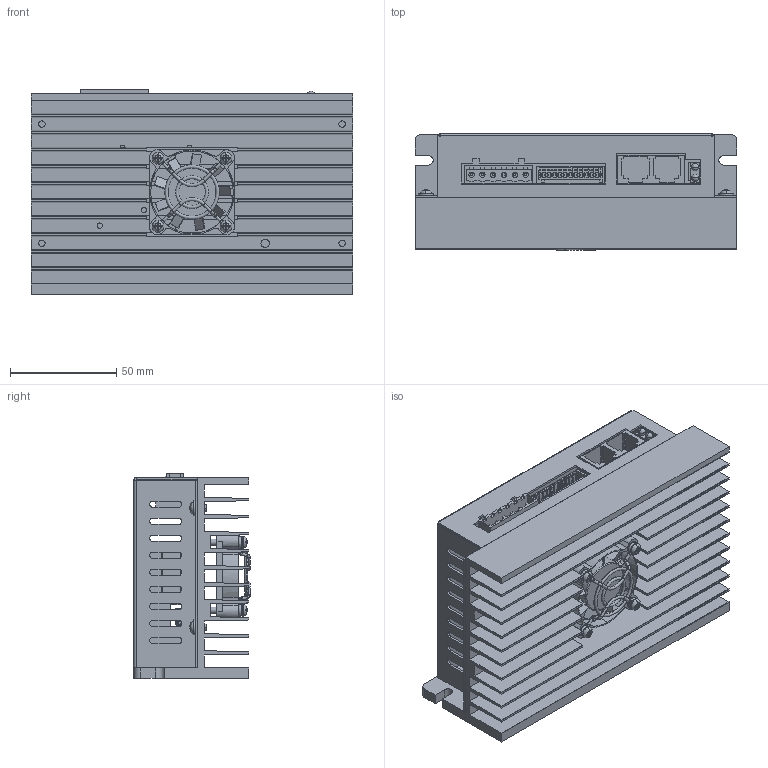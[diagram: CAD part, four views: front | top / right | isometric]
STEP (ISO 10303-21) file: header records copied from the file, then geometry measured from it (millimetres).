
FILE_DESCRIPTION((''),'2;1');
FILE_NAME('YKE2608PR','2022-11-01T10:29:54',('Admin'),(''),'CREO PARAMETRIC BY PTC INC, 2020074','CREO PARAMETRIC BY PTC INC, 2020074','');
FILE_SCHEMA(('CONFIG_CONTROL_DESIGN'));
Products named in the file (1): YKE2608PR
Bounding box: 151.2 x 54.55 x 96.19 mm (x, y, z)
Volume: 196436 mm3; surface area: 187613.2 mm2
Topology: 1 solids, 5 shells, 2196 faces, 6030 edges, 3949 vertices
Faces by surface type: plane 1523, cylinder 549, torus 42, sphere 30, cone 28, bspline 24
Entity records: 71103 total; most frequent: CARTESIAN_POINT 14078, ORIENTED_EDGE 12042, DIRECTION 11609, EDGE_CURVE 6021, VECTOR 4237, LINE 4237, VERTEX_POINT 3949, AXIS2_PLACEMENT_3D 3686
